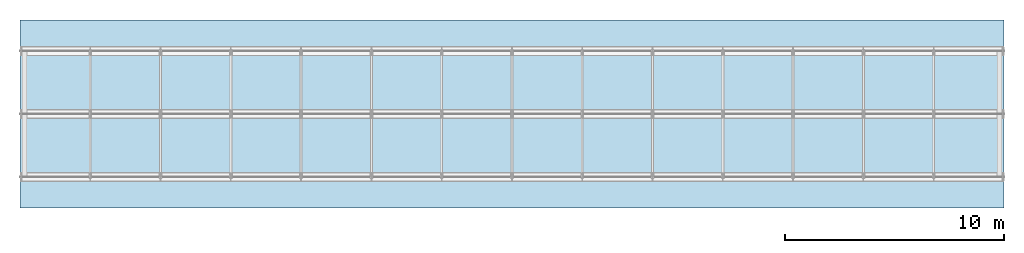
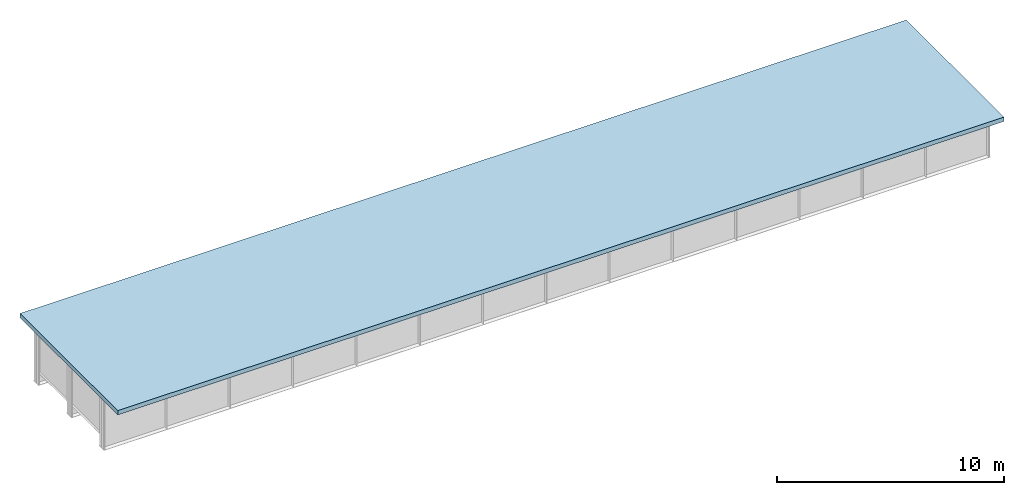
# One storey, part 8 of 12: 1 slab.
"""IFC4 building model written with IfcOpenShell, lengths in metres."""

import ifcopenshell
import ifcopenshell.guid

model = None  # the IFC model being written
_history = None  # IfcOwnerHistory: only IFC2X3 demands one
_inside = {}  # id of a spatial element -> (the spatial element, [elements in it])
_under = {}  # id of a project, library or spatial element -> (it, [spatial elements below it])
_declared = {}  # id of a project -> (the project, [libraries it declares])
_typed = {}  # id of a type object -> (the type object, [elements of that type])
_made_of = {}  # id of a material, layer set ... -> (it, [elements and type objects made of it])


def new_model(schema):
    """Start an empty IFC model of exactly this schema.

    Asked for "IFC4X3", IfcOpenShell would pick the latest addendum, in which some entities
    have other attributes; the version numbers below select the first issue.
    IFC2X3 requires an IfcOwnerHistory on every rooted entity: one is made here for all.
    """
    global model, _history
    if schema == "IFC4X3":
        model = ifcopenshell.file(schema_version=(4, 3, 0, 0))
    else:
        model = ifcopenshell.file(schema=schema)
    _inside.clear()
    _under.clear()
    _declared.clear()
    _typed.clear()
    _made_of.clear()
    _history = None
    if model.schema == "IFC2X3":
        org = make("IfcOrganization", Name="unknown")
        user = make(
            "IfcPersonAndOrganization",
            ThePerson=make("IfcPerson", FamilyName="unknown"),
            TheOrganization=org,
        )
        app = make(
            "IfcApplication",
            ApplicationDeveloper=org,
            Version="unknown",
            ApplicationFullName="unknown",
            ApplicationIdentifier="unknown",
        )
        _history = make(
            "IfcOwnerHistory",
            OwningUser=user,
            OwningApplication=app,
            ChangeAction="ADDED",
            CreationDate=0,
        )
    return model


def make(cls, **values):
    """One entity of the class cls with the attributes given. An attribute that is None is left unset."""
    return model.create_entity(
        cls, **{name: value for name, value in values.items() if value is not None}
    )


def rooted(cls, **values):
    """An entity with a GlobalId (a new one), such as an element, a storey or a relation."""
    return make(cls, GlobalId=ifcopenshell.guid.new(), OwnerHistory=_history, **values)


def si_unit(unit_type, name, prefix=None):
    """IfcSIUnit, for example si_unit("LENGTHUNIT", "METRE", prefix="MILLI")."""
    return make("IfcSIUnit", UnitType=unit_type, Prefix=prefix, Name=name)


def assignment(units):
    """IfcUnitAssignment: the units of a project."""
    return None if units is None else make("IfcUnitAssignment", Units=units)


def point(xyz):
    """IfcCartesianPoint."""
    return None if xyz is None else make("IfcCartesianPoint", Coordinates=xyz)


def direction(xyz):
    """IfcDirection."""
    return None if xyz is None else make("IfcDirection", DirectionRatios=xyz)


def frame(location, z_axis=None, x_axis=None):
    """IfcAxis2Placement3D, a coordinate frame: its origin and axes. An axis left out is left unset."""
    return make(
        "IfcAxis2Placement3D",
        Location=point(location),
        Axis=direction(z_axis),
        RefDirection=direction(x_axis),
    )


def origin():
    """The frame at (0, 0, 0) with its axes left unset."""
    return frame((0.0, 0.0, 0.0))


def origin_with_axes():
    """The frame at (0, 0, 0) with the z axis (0, 0, 1) and the x axis (1, 0, 0) written out."""
    return frame((0.0, 0.0, 0.0), z_axis=(0.0, 0.0, 1.0), x_axis=(1.0, 0.0, 0.0))


def place(relative_to, where):
    """IfcLocalPlacement: puts the frame where relative to a parent placement (None: the world)."""
    return make(
        "IfcLocalPlacement", PlacementRelTo=relative_to, RelativePlacement=where
    )


def context(
    kind, dimensions, precision=None, world=None, true_north=None, identifier=None
):
    """IfcGeometricRepresentationContext, for example the 3D "Model" context."""
    return make(
        "IfcGeometricRepresentationContext",
        ContextIdentifier=identifier,
        ContextType=kind,
        CoordinateSpaceDimension=dimensions,
        Precision=precision,
        WorldCoordinateSystem=world,
        TrueNorth=true_north,
    )


def subcontext(parent, identifier, kind, view, scale=None):
    """IfcGeometricRepresentationSubContext, for example "Body" below "Model"."""
    return make(
        "IfcGeometricRepresentationSubContext",
        ContextIdentifier=identifier,
        ContextType=kind,
        ParentContext=parent,
        TargetScale=scale,
        TargetView=view,
    )


def project(units=None, contexts=None):
    """IfcProject with its units and contexts."""
    return rooted(
        "IfcProject",
        Name="project",
        RepresentationContexts=contexts,
        UnitsInContext=assignment(units),
    )


def spatial(cls, under=None, at=None, **own):
    """A site, building, storey or space (cls), placed at a placement, below another one or the project."""
    s = rooted(cls, ObjectPlacement=at, **own)
    if under is not None:
        _under.setdefault(under.id(), (under, []))[1].append(s)
    return s


def polyline(points):
    """IfcPolyline through the points."""
    return make("IfcPolyline", Points=[point(p) for p in points])


def outline(outer, holes=None, kind="AREA"):
    """IfcArbitraryClosedProfileDef: a profile drawn as a closed curve; with holes, ...WithVoids."""
    if holes is None:
        return make("IfcArbitraryClosedProfileDef", ProfileType=kind, OuterCurve=outer)
    return make(
        "IfcArbitraryProfileDefWithVoids",
        ProfileType=kind,
        OuterCurve=outer,
        InnerCurves=holes,
    )


def extrude(swept, where, along, depth):
    """IfcExtrudedAreaSolid: the profile swept, set in the frame where, extruded along a direction by depth."""
    return make(
        "IfcExtrudedAreaSolid",
        SweptArea=swept,
        Position=where,
        ExtrudedDirection=direction(along),
        Depth=depth,
    )


def shape(context_of_items, identifier, shape_type, items):
    """IfcShapeRepresentation: the items that make up one representation, for example the "Body"."""
    return make(
        "IfcShapeRepresentation",
        ContextOfItems=context_of_items,
        RepresentationIdentifier=identifier,
        RepresentationType=shape_type,
        Items=items,
    )


def made_of(thing, what):
    """Note that an element or type object is made of a material, layer set ...; save() writes the relation."""
    if what is not None:
        _made_of.setdefault(what.id(), (what, []))[1].append(thing)
    return thing


def element(
    cls,
    number,
    at=None,
    inside=None,
    cuts=None,
    type_object=None,
    material=None,
    context=None,
    identifier="Body",
    shape_type=None,
    held_by="IfcProductDefinitionShape",
    body=None,
    shapes=None,
    **own,
):
    """One element of the class cls, such as IfcWall. Its Tag is "e" and its number.

    at: its placement. inside: the storey or other place that contains it. cuts: it is an
    opening in that element (IfcRelVoidsElement). A single representation is given by context,
    identifier, shape_type and body (its items); several are given by shapes. held_by: the class
    of the entity that holds the representations. save() writes the other relations.
    """
    e = rooted(cls, Tag="e%d" % number, ObjectPlacement=at, **own)
    if body is not None:
        shapes = [shape(context, identifier, shape_type, body)]
    if shapes is not None:
        e.Representation = make(held_by, Representations=shapes)
    if inside is not None:
        _inside.setdefault(inside.id(), (inside, []))[1].append(e)
    if cuts is not None:
        rooted(
            "IfcRelVoidsElement", RelatingBuildingElement=cuts, RelatedOpeningElement=e
        )
    if type_object is not None:
        _typed.setdefault(type_object.id(), (type_object, []))[1].append(e)
    return made_of(e, material)


def aggregate(whole, parts):
    """IfcRelAggregates: a whole, such as a stair, and the parts it consists of."""
    return rooted("IfcRelAggregates", RelatingObject=whole, RelatedObjects=parts)


def save(model, path):
    """Write the relations noted so far, then the file.

    IfcRelAggregates (storeys below a building ...), IfcRelContainedInSpatialStructure (elements
    in a storey), IfcRelDefinesByType, IfcRelAssociatesMaterial and IfcRelDeclares: one each for
    every whole, place, type object, material and project.
    """
    for whole, parts in _under.values():
        aggregate(whole, parts)
    for where, things in _inside.values():
        rooted(
            "IfcRelContainedInSpatialStructure",
            RelatedElements=things,
            RelatingStructure=where,
        )
    for kind, things in _typed.values():
        rooted("IfcRelDefinesByType", RelatedObjects=things, RelatingType=kind)
    for what, things in _made_of.values():
        rooted("IfcRelAssociatesMaterial", RelatedObjects=things, RelatingMaterial=what)
    for by, libraries in _declared.values():
        rooted("IfcRelDeclares", RelatingContext=by, RelatedDefinitions=libraries)
    model.write(path)


model = new_model("IFC4")

# Units and contexts
model_context = context("Model", 3, precision=1e-05, world=origin())
body_context = subcontext(model_context, "Body", "Model", "MODEL_VIEW")
ifc_project = project(units=[si_unit("LENGTHUNIT", "METRE"), si_unit("AREAUNIT", "SQUARE_METRE"), si_unit("VOLUMEUNIT", "CUBIC_METRE"), si_unit("PLANEANGLEUNIT", "RADIAN")], contexts=[model_context])

# Site, building, storey
site_placement = place(None, origin_with_axes())
site = spatial("IfcSite", under=ifc_project, at=site_placement, Name="Default Site")
building_placement = place(site_placement, origin_with_axes())
building = spatial("IfcBuilding", under=site, at=building_placement, Name="Bridge Structure")
storey_placement = place(building_placement, origin_with_axes())
storey = spatial("IfcBuildingStorey", under=building, at=storey_placement, Name="Superstructure")

# Slab
slab_placement = place(storey_placement, frame((0.0, 0.0, 1.323), z_axis=(0.0, 0.0, 1.0), x_axis=(1.0, 0.0, 0.0)))
element("IfcSlab", 1, at=slab_placement, inside=storey, Name="Deck Slab", context=body_context, shape_type="SweptSolid", body=[
    extrude(outline(polyline([(0.0, -4.3), (45.0, -4.3), (45.0, 4.3), (0.0, 4.3), (0.0, -4.3)])), origin_with_axes(), (0.0, 0.0, 1.0), 0.23),
])

save(model, "model.ifc")
